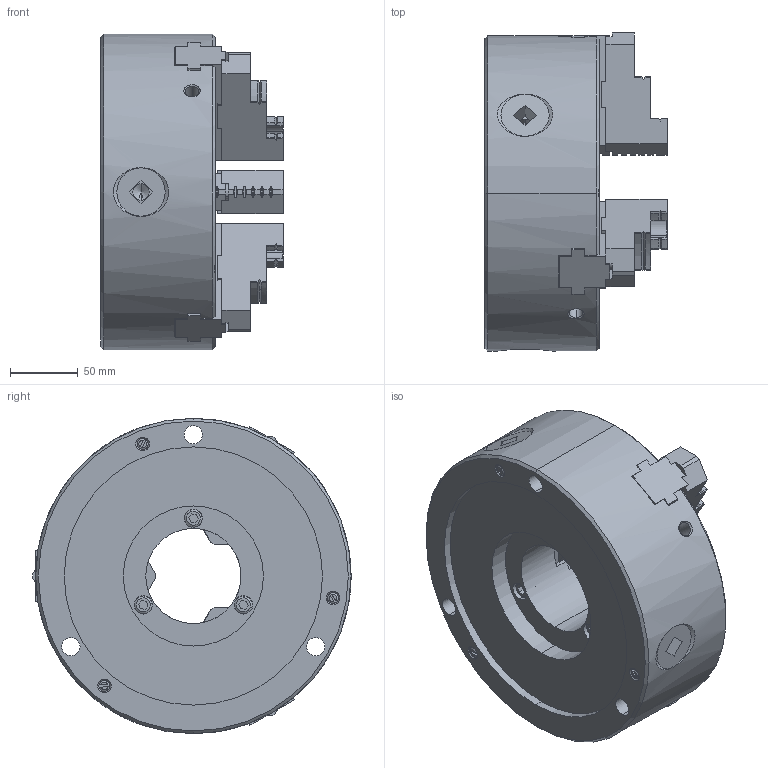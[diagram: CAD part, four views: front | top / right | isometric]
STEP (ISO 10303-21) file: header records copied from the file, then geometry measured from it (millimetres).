
FILE_DESCRIPTION (( 'STEP AP214' ), '1' );
FILE_NAME ('61S263385-1_JN09TN.STEP', '2026-03-16T05:07:06', ( '' ), ( '' ), 'SwSTEP 2.0', 'SolidWorks 2022', '' );
FILE_SCHEMA (( 'AUTOMOTIVE_DESIGN' ));
Length unit declared in the file: millimetre
Products named in the file (5): 61S313819_TOP JAW; Part19^61S263385-1_JN09TN; Bアナツキ M12×25; 61S263385-1_JN09TN; 61S313818_BASE JAW
Assembly tree (13 placements, depth 2):
  61S263385-1_JN09TN
    61S313818_BASE JAW  x3
    61S313819_TOP JAW  x3
    Bアナツキ M12×25  x6
    Part19^61S263385-1_JN09TN
Bounding box: 134 x 234 x 232 mm (x, y, z)
Volume: 3195089.8 mm3; surface area: 312624.1 mm2
Topology: 13 solids, 19 shells, 1005 faces, 2647 edges, 1695 vertices
Faces by surface type: plane 572, cylinder 289, cone 136, torus 4, sphere 4
Entity records: 16354 total; most frequent: CARTESIAN_POINT 3427, DIRECTION 2722, ORIENTED_EDGE 2612, EDGE_CURVE 1306, AXIS2_PLACEMENT_3D 973, VERTEX_POINT 842, LINE 776, VECTOR 776
